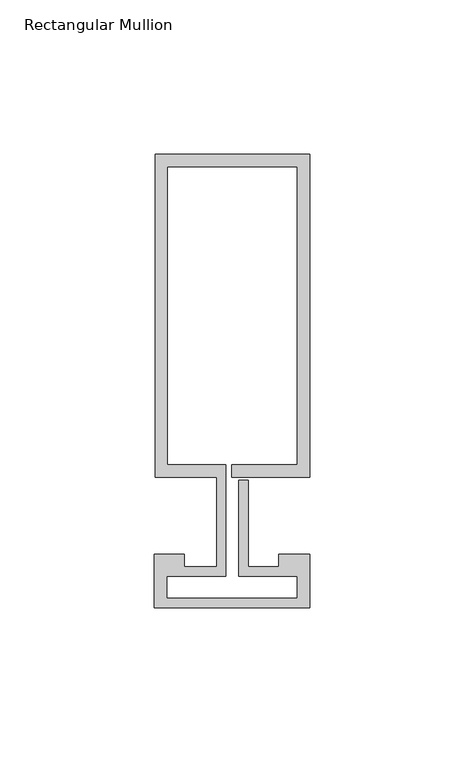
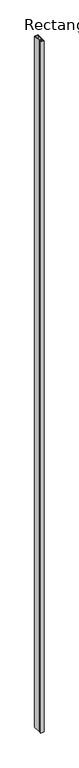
"""IFC4 building model written with IfcOpenShell, lengths in millimetres: member geometry, Rectangular Mullion : Reynaers_CW-50_Mullion-Transom_Vertical_104.5mm_Facecap-02B."""

from ifc_helpers import new_model, si_unit, frame, origin, place, context, project, spatial, polyline, outline, extrude, source, transform, mapped, element, save


def rectangular_mullion_39038054(model_context):
    return source(origin(), model_context, "Body", "SweptSolid", [
        extrude(outline(polyline([(-24.8004059, 117.0), (25.1995941, 117.0), (25.1995941, 12.5), (0.0, 12.5), (0.0, 16.5), (21.1995941, 16.5), (21.1995941, 113.0), (-20.8004059, 113.0), (-20.8004059, 16.5), (-1.9004059, 16.5), (-1.9004059, -19.5), (-20.994845, -19.5), (-20.994845, -26.7191338), (21.1995941, -26.7191338), (21.1995941, -19.5), (2.2995941, -19.5), (2.2995941, 11.5), (5.2995941, 11.5), (5.2995941, -16.5), (15.2996495, -16.5), (15.2996495, -12.5), (25.1995941, -12.5), (25.1995941, -29.8), (-24.994845, -29.8), (-24.994845, -12.5), (-15.2996495, -12.5), (-15.2996495, -16.5), (-4.9004059, -16.5), (-4.9004059, 12.5), (-24.8004059, 12.5), (-24.8004059, 117.0)])), frame((0.0, 0.0, -10400.0), z_axis=(0.0, 0.0, 1.0), x_axis=(1.0, 0.0, 0.0)), (0.0, 0.0, 1.0), 10400.0),
    ])


if __name__ == "__main__":
    model = new_model("IFC4")
    model_context = context("Model", 3, world=origin())
    ifc_project = project(units=[si_unit("LENGTHUNIT", "METRE", prefix="MILLI")], contexts=[model_context])
    site = spatial("IfcSite", under=ifc_project)
    building = spatial("IfcBuilding", under=site)
    placement = place(None, origin())
    rectangular_mullion_shape = rectangular_mullion_39038054(model_context)
    element("IfcMember", 1, ObjectType="Rectangular Mullion : Reynaers_CW-50_Mullion-Transom_Vertical_104.5mm_Facecap-02B", at=placement, inside=building, context=model_context, shape_type="MappedRepresentation", body=[
        mapped(rectangular_mullion_shape, transform((0.0, 0.0, 0.0), x_axis=(1.0, 0.0, 0.0), y_axis=(0.0, 1.0, 0.0), z_axis=(0.0, 0.0, 1.0))),
    ])
    save(model, "model.ifc")
